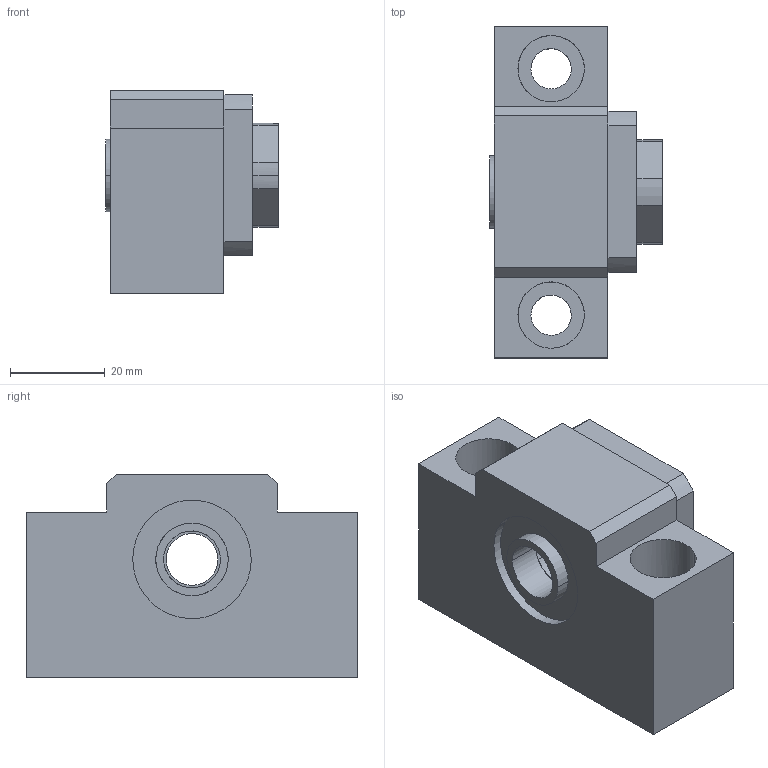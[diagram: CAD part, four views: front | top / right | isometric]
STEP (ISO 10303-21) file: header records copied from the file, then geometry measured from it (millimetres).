
FILE_DESCRIPTION(('CATIA V5 STEP Exchange'),'2;1');
FILE_NAME('D:\서포트 완성도면\WBK\AK12.stp','2014-03-26T10:28:16+00:00',('none'),('none'),'CATIA Version 5 Release 18 GA (IN-10)','CATIA V5 STEP AP203','none');
FILE_SCHEMA(('CONFIG_CONTROL_DESIGN'));
Length unit declared in the file: millimetre
Products named in the file (1): AK12
Assembly tree (4 placements, depth 2):
  AK12
    #56
    #1883
    #2146
    #2409
Bounding box: 36.5 x 70 x 43 mm (x, y, z)
Volume: 62929.2 mm3; surface area: 17512.8 mm2
Topology: 4 solids, 4 shells, 71 faces, 170 edges, 114 vertices
Faces by surface type: cylinder 38, plane 33
Entity records: 2875 total; most frequent: CARTESIAN_POINT 1207, ORIENTED_EDGE 340, DIRECTION 258, EDGE_CURVE 170, VERTEX_POINT 114, VECTOR 94, LINE 94, AXIS2_PLACEMENT_3D 93
